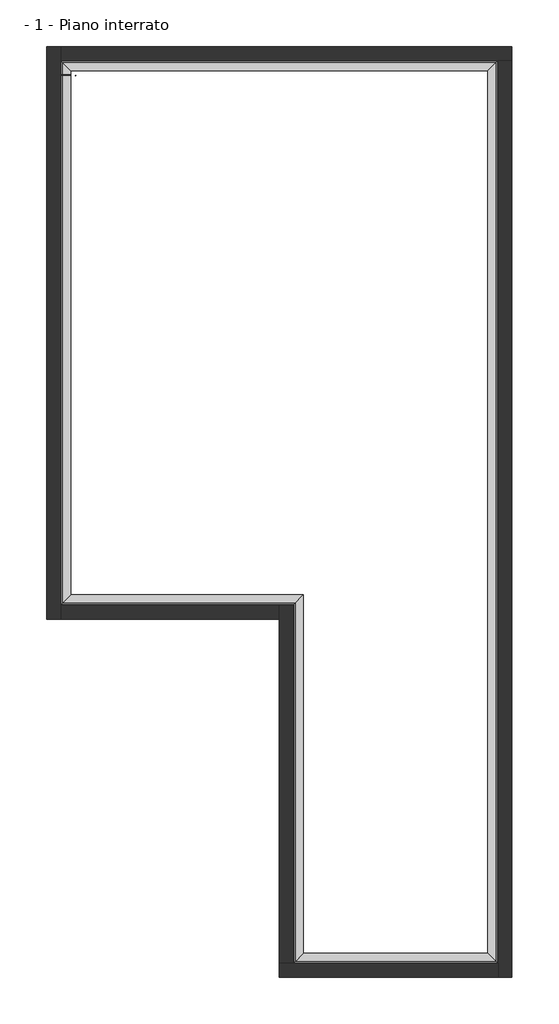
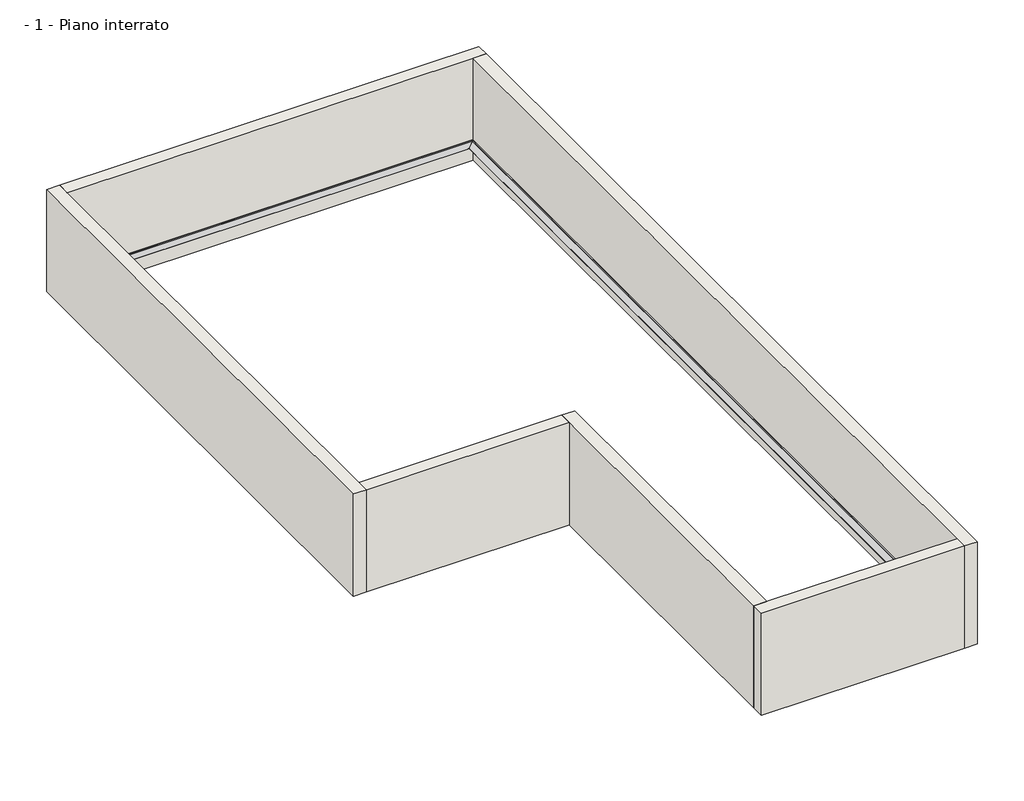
# One storey: 6 walls, 5 proxies.
"""IFC4 building model written with IfcOpenShell, lengths in millimetres."""

from ifc_helpers import new_model, si_unit, frame, origin, place, context, project, spatial, polyline, outline, extrude, faceted_brep, transform, mapped, element, save
from components import generic_models_3b7ed561

model = new_model("IFC4")

# Units and contexts
model_context = context("Model", 3, world=origin())
ifc_project = project(units=[si_unit("LENGTHUNIT", "METRE", prefix="MILLI")], contexts=[model_context])

# Site, building, storey
site = spatial("IfcSite", under=ifc_project)
building = spatial("IfcBuilding", under=site)
storey = spatial("IfcBuildingStorey", under=building, Name="- 1 - Piano interrato", Elevation=-2500.0)

# Proxies
placement = place(None, origin())
element("IfcBuildingElementProxy", 1, Name="PLASTIVO 250 VOLTECO horizontal strip", ObjectType="PLASTIVO 250 VOLTECO horizontal strip", at=placement, inside=storey, context=model_context, shape_type="SweptSolid", body=[
    extrude(outline(polyline([(-4510.8494157, -13645.4646364), (-4710.8494157, -13845.4646364), (-4710.8494157, -6145.4646364), (-4510.8494157, -5945.4646364), (-4510.8494157, -13645.4646364)])), frame((0.0, 0.0, -2002.0), z_axis=(0.0, 0.0, 1.0), x_axis=(1.0, 0.0, 0.0)), (0.0, 0.0, 1.0), 1.0),
    extrude(outline(polyline([(-550.8494157, -13645.4646364), (-350.8494157, -13845.4646364), (-4710.8494157, -13845.4646364), (-4510.8494157, -13645.4646364), (-550.8494157, -13645.4646364)])), frame((0.0, 0.0, -2002.0), z_axis=(0.0, 0.0, 1.0), x_axis=(1.0, 0.0, 0.0)), (0.0, 0.0, 1.0), 1.0),
    extrude(outline(polyline([(-550.8494157, 5314.5353636), (-350.8494157, 5514.5353636), (-350.8494157, -13845.4646364), (-550.8494157, -13645.4646364), (-550.8494157, 5314.5353636)])), frame((0.0, 0.0, -2002.0), z_axis=(0.0, 0.0, 1.0), x_axis=(1.0, 0.0, 0.0)), (0.0, 0.0, 1.0), 1.0),
    extrude(outline(polyline([(-9510.8494157, 5314.5353636), (-9710.8494157, 5514.5353636), (-350.8494157, 5514.5353636), (-550.8494157, 5314.5353636), (-9510.8494157, 5314.5353636)])), frame((0.0, 0.0, -2002.0), z_axis=(0.0, 0.0, 1.0), x_axis=(1.0, 0.0, 0.0)), (0.0, 0.0, 1.0), 1.0),
    extrude(outline(polyline([(-9510.8494157, -5945.4646364), (-9710.8494157, -6145.4646364), (-9710.8494157, 5514.5353636), (-9510.8494157, 5314.5353636), (-9510.8494157, -5945.4646364)])), frame((0.0, 0.0, -2002.0), z_axis=(0.0, 0.0, 1.0), x_axis=(1.0, 0.0, 0.0)), (0.0, 0.0, 1.0), 1.0),
    extrude(outline(polyline([(-9710.8494157, -6145.4646364), (-9510.8494157, -5945.4646364), (-4510.8494157, -5945.4646364), (-4710.8494157, -6145.4646364), (-9710.8494157, -6145.4646364)])), frame((0.0, 0.0, -2002.0), z_axis=(0.0, 0.0, 1.0), x_axis=(1.0, 0.0, 0.0)), (0.0, 0.0, 1.0), 1.0),
])
element("IfcBuildingElementProxy", 2, Name="AKTI-VO 201 all along the corners", ObjectType="AKTI-VO 201 all along the corners", at=placement, inside=storey, context=model_context, shape_type="SweptSolid", body=[
    extrude(outline(polyline([(-360.8494157, -13835.4646364), (-350.8494157, -13845.4646364), (-4710.8494157, -13845.4646364), (-4700.8494157, -13835.4646364), (-360.8494157, -13835.4646364)])), frame((0.0, 0.0, -2001.0), z_axis=(0.0, 0.0, 1.0), x_axis=(1.0, 0.0, 0.0)), (0.0, 0.0, 1.0), 10.0),
    extrude(outline(polyline([(-360.8494157, 5504.5353636), (-350.8494157, 5514.5353636), (-350.8494157, -13845.4646364), (-360.8494157, -13835.4646364), (-360.8494157, 5504.5353636)])), frame((0.0, 0.0, -2001.0), z_axis=(0.0, 0.0, 1.0), x_axis=(1.0, 0.0, 0.0)), (0.0, 0.0, 1.0), 10.0),
    extrude(outline(polyline([(-4700.8494157, -13835.4646364), (-4710.8494157, -13845.4646364), (-4710.8494157, -6145.4646364), (-4700.8494157, -6135.4646364), (-4700.8494157, -13835.4646364)])), frame((0.0, 0.0, -2001.0), z_axis=(0.0, 0.0, 1.0), x_axis=(1.0, 0.0, 0.0)), (0.0, 0.0, 1.0), 10.0),
    extrude(outline(polyline([(-9700.8494157, 5504.5353636), (-9710.8494157, 5514.5353636), (-350.8494157, 5514.5353636), (-360.8494157, 5504.5353636), (-9700.8494157, 5504.5353636)])), frame((0.0, 0.0, -2001.0), z_axis=(0.0, 0.0, 1.0), x_axis=(1.0, 0.0, 0.0)), (0.0, 0.0, 1.0), 10.0),
    extrude(outline(polyline([(-9700.8494157, -6135.4646364), (-9710.8494157, -6145.4646364), (-9710.8494157, 5514.5353636), (-9700.8494157, 5504.5353636), (-9700.8494157, -6135.4646364)])), frame((0.0, 0.0, -2001.0), z_axis=(0.0, 0.0, 1.0), x_axis=(1.0, 0.0, 0.0)), (0.0, 0.0, 1.0), 10.0),
    extrude(outline(polyline([(-9710.8494157, -6145.4646364), (-9700.8494157, -6135.4646364), (-4700.8494157, -6135.4646364), (-4710.8494157, -6145.4646364), (-9710.8494157, -6145.4646364)])), frame((0.0, 0.0, -2001.0), z_axis=(0.0, 0.0, 1.0), x_axis=(1.0, 0.0, 0.0)), (0.0, 0.0, 1.0), 10.0),
])
generic_models_shape = generic_models_3b7ed561(model_context)
element("IfcBuildingElementProxy", 3, Name="ENG-Connectors installed in horizontal structure sealed with AKTI-VO 201 : ENG-Connectors installed in horizontal structure sealed with AKTI-VO 201", ObjectType="ENG-Connectors installed in horizontal structure sealed with AKTI-VO 201 : ENG-Connectors installed in horizontal structure sealed with AKTI-VO 201", at=placement, inside=storey, context=model_context, shape_type="MappedRepresentation", body=[
    mapped(generic_models_shape, transform((-9407.8494157, 5208.5353636, -2001.0), x_axis=(1.0, 0.0, 0.0), y_axis=(0.0, 1.0, 0.0), z_axis=(0.0, 0.0, 1.0))),
])
element("IfcBuildingElementProxy", 4, Name="ENG-Connectors installed in vertical walls sealed with AKTI-VO 201 : ENG-Connectors installed in vertical walls sealed with AKTI-VO 201", ObjectType="ENG-Connectors installed in vertical walls sealed with AKTI-VO 201 : ENG-Connectors installed in vertical walls sealed with AKTI-VO 201", at=placement, inside=storey, context=model_context, shape_type="MappedRepresentation", body=[
    mapped(generic_models_shape, transform((-9710.8494157, 5220.5353636, -1872.40654), x_axis=(0.0, 1.0, 0.0), y_axis=(0.0, 0.0, 1.0), z_axis=(1.0, 0.0, 0.0))),
])
element("IfcBuildingElementProxy", 5, Name="WT 102 all along the corners", ObjectType="WT 102 all along the corners", at=placement, inside=storey, context=model_context, shape_type="SweptSolid", body=[
    extrude(outline(polyline([(-370.8494157, -13825.4646364), (-350.8494157, -13845.4646364), (-4710.8494157, -13845.4646364), (-4690.8494157, -13825.4646364), (-370.8494157, -13825.4646364)])), frame((0.0, 0.0, -1991.0), z_axis=(0.0, 0.0, 1.0), x_axis=(1.0, 0.0, 0.0)), (0.0, 0.0, 1.0), 20.0),
    extrude(outline(polyline([(-4690.8494157, -13825.4646364), (-4710.8494157, -13845.4646364), (-4710.8494157, -6145.4646364), (-4690.8494157, -6125.4646364), (-4690.8494157, -13825.4646364)])), frame((0.0, 0.0, -1991.0), z_axis=(0.0, 0.0, 1.0), x_axis=(1.0, 0.0, 0.0)), (0.0, 0.0, 1.0), 20.0),
    extrude(outline(polyline([(-370.8494157, 5494.5353636), (-350.8494157, 5514.5353636), (-350.8494157, -13845.4646364), (-370.8494157, -13825.4646364), (-370.8494157, 5494.5353636)])), frame((0.0, 0.0, -1991.0), z_axis=(0.0, 0.0, 1.0), x_axis=(1.0, 0.0, 0.0)), (0.0, 0.0, 1.0), 20.0),
    extrude(outline(polyline([(-9690.8494157, 5494.5353636), (-9710.8494157, 5514.5353636), (-350.8494157, 5514.5353636), (-370.8494157, 5494.5353636), (-9690.8494157, 5494.5353636)])), frame((0.0, 0.0, -1991.0), z_axis=(0.0, 0.0, 1.0), x_axis=(1.0, 0.0, 0.0)), (0.0, 0.0, 1.0), 20.0),
    extrude(outline(polyline([(-9690.8494157, -6125.4646364), (-9710.8494157, -6145.4646364), (-9710.8494157, 5514.5353636), (-9690.8494157, 5494.5353636), (-9690.8494157, -6125.4646364)])), frame((0.0, 0.0, -1991.0), z_axis=(0.0, 0.0, 1.0), x_axis=(1.0, 0.0, 0.0)), (0.0, 0.0, 1.0), 20.0),
    extrude(outline(polyline([(-9710.8494157, -6145.4646364), (-9690.8494157, -6125.4646364), (-4690.8494157, -6125.4646364), (-4710.8494157, -6145.4646364), (-9710.8494157, -6145.4646364)])), frame((0.0, 0.0, -1991.0), z_axis=(0.0, 0.0, 1.0), x_axis=(1.0, 0.0, 0.0)), (0.0, 0.0, 1.0), 20.0),
])

# Walls
element("IfcWall", 6, ObjectType="Brick wall", at=placement, inside=storey, context=model_context, shape_type="Brep", body=[
    faceted_brep([(-9730.8494157, -6465.4646364, -2500.0), (-9730.8494157, -6165.4646364, -2500.0), (-9730.8494157, 5534.5353636, -2500.0), (-9730.8494157, 5834.5353636, -2500.0), (-9730.8494157, 5834.5353636, 0.0), (-9730.8494157, 5534.5353636, 0.0), (-9730.8494157, -6165.4646364, 0.0), (-9730.8494157, -6465.4646364, 0.0), (-10030.8494157, -6465.4646364, -2500.0), (-10030.8494157, -6465.4646364, 0.0), (-10030.8494157, 5834.5353636, 0.0), (-10030.8494157, 5834.5353636, -2500.0)], [[[0, 1, 2, 3, 4, 5, 6, 7]], [[8, 9, 10, 11]], [[3, 2, 1, 0, 8, 11]], [[7, 6, 5, 4, 10, 9]], [[4, 3, 11, 10]], [[0, 7, 9, 8]]]),
])
element("IfcWall", 7, ObjectType="Brick wall", at=placement, inside=storey, context=model_context, shape_type="Brep", body=[
    faceted_brep([(-9730.8494157, 5534.5353636, 0.0), (-9730.8494157, 5534.5353636, -2001.0), (-9730.8494157, 5534.5353636, -2500.0), (-330.8494157, 5534.5353636, -2500.0), (-30.8494157, 5534.5353636, -2500.0), (-30.8494157, 5534.5353636, 0.0), (-330.8494157, 5534.5353636, 0.0), (-9720.8494157, 5534.5353636, 0.0), (-9730.8494157, 5834.5353636, -2500.0), (-9730.8494157, 5834.5353636, 0.0), (-30.8494157, 5834.5353636, 0.0), (-30.8494157, 5834.5353636, -2500.0)], [[[0, 1, 2, 3, 4, 5, 6, 7]], [[8, 9, 10, 11]], [[4, 3, 2, 8, 11]], [[0, 7, 6, 5, 10, 9]], [[5, 4, 11, 10]], [[0, 9, 8, 2, 1]]]),
])
element("IfcWall", 8, ObjectType="Brick wall", at=placement, inside=storey, context=model_context, shape_type="Brep", body=[
    faceted_brep([(-330.8494157, 5534.5353636, -2500.0), (-330.8494157, -13865.4646364, -2500.0), (-330.8494157, -14165.4646364, -2500.0), (-330.8494157, -14165.4646364, 0.0), (-330.8494157, -13865.4646364, 0.0), (-330.8494157, 5524.5353636, 0.0), (-330.8494157, 5534.5353636, 0.0), (-330.8494157, 5534.5353636, -2001.0), (-30.8494157, 5534.5353636, -2500.0), (-30.8494157, 5534.5353636, 0.0), (-30.8494157, -14165.4646364, 0.0), (-30.8494157, -14165.4646364, -2500.0)], [[[0, 1, 2, 3, 4, 5, 6, 7]], [[8, 9, 10, 11]], [[2, 1, 0, 8, 11]], [[6, 5, 4, 3, 10, 9]], [[0, 7, 6, 9, 8]], [[3, 2, 11, 10]]]),
])
element("IfcWall", 9, ObjectType="Brick wall", at=placement, inside=storey, context=model_context, shape_type="Brep", body=[
    faceted_brep([(-330.8494157, -13865.4646364, -2500.0), (-4730.8494157, -13865.4646364, -2500.0), (-5030.8494157, -13865.4646364, -2500.0), (-5030.8494157, -13865.4646364, 0.0), (-4730.8494157, -13865.4646364, 0.0), (-340.8494157, -13865.4646364, 0.0), (-330.8494157, -13865.4646364, 0.0), (-330.8494157, -13865.4646364, -2001.0), (-330.8494157, -14165.4646364, -2500.0), (-330.8494157, -14165.4646364, 0.0), (-5030.8494157, -14165.4646364, 0.0), (-5030.8494157, -14165.4646364, -2500.0)], [[[0, 1, 2, 3, 4, 5, 6, 7]], [[8, 9, 10, 11]], [[2, 1, 0, 8, 11]], [[6, 5, 4, 3, 10, 9]], [[0, 7, 6, 9, 8]], [[3, 2, 11, 10]]]),
])
element("IfcWall", 10, ObjectType="Brick wall", at=placement, inside=storey, context=model_context, shape_type="Brep", body=[
    faceted_brep([(-4730.8494157, -13865.4646364, -2500.0), (-4730.8494157, -6165.4646364, -2500.0), (-4730.8494157, -6165.4646364, 0.0), (-4730.8494157, -13855.4646364, 0.0), (-4730.8494157, -13865.4646364, 0.0), (-4730.8494157, -13865.4646364, -2001.0), (-5030.8494157, -6165.4646364, -2500.0), (-5030.8494157, -6465.4646364, -2500.0), (-5030.8494157, -13865.4646364, -2500.0), (-5030.8494157, -13865.4646364, 0.0), (-5030.8494157, -6465.4646364, 0.0), (-5030.8494157, -6165.4646364, 0.0)], [[[0, 1, 2, 3, 4, 5]], [[6, 7, 8, 9, 10, 11]], [[1, 0, 8, 7, 6]], [[4, 3, 2, 11, 10, 9]], [[0, 5, 4, 9, 8]], [[2, 1, 6, 11]]]),
])
element("IfcWall", 11, ObjectType="Brick wall", at=placement, inside=storey, context=model_context, shape_type="Brep", body=[
    faceted_brep([(-9730.8494157, -6465.4646364, -2500.0), (-5030.8494157, -6465.4646364, -2500.0), (-5030.8494157, -6465.4646364, 0.0), (-9730.8494157, -6465.4646364, 0.0), (-5030.8494157, -6165.4646364, -2500.0), (-9730.8494157, -6165.4646364, -2500.0), (-9730.8494157, -6165.4646364, -2001.0), (-9730.8494157, -6165.4646364, 0.0), (-9720.8494157, -6165.4646364, 0.0), (-5030.8494157, -6165.4646364, 0.0)], [[[0, 1, 2, 3]], [[4, 5, 6, 7, 8, 9]], [[1, 0, 5, 4]], [[3, 2, 9, 8, 7]], [[2, 1, 4, 9]], [[3, 7, 6, 5, 0]]]),
])

save(model, "model.ifc")
